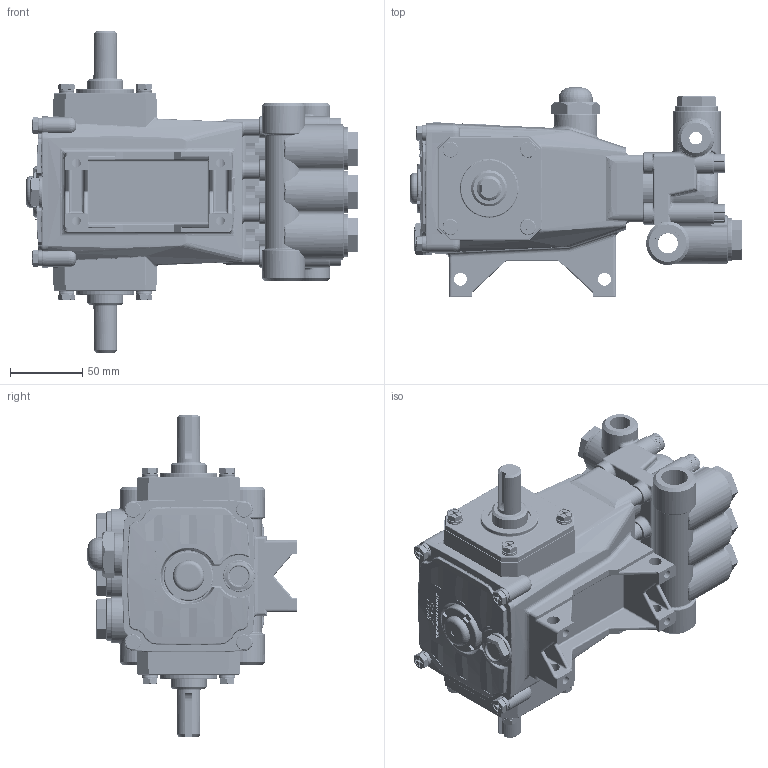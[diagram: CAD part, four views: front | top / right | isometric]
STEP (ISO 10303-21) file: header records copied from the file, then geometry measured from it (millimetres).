
FILE_DESCRIPTION (( 'STEP AP214' ), '1' );
FILE_NAME ('3CP 1120.STEP', '2012-11-15T10:04:57', ( '' ), ( '' ), 'SwSTEP 2.0', 'SolidWorks 2012', '' );
FILE_SCHEMA (( 'AUTOMOTIVE_DESIGN' ));
Length unit declared in the file: millimetre
Products named in the file (1): 3CP 1120
Bounding box: 230.5 x 145.2 x 223 mm (x, y, z)
Volume: 1446125.4 mm3; surface area: 319118.5 mm2
Topology: 3 solids, 37 shells, 8254 faces, 20838 edges, 12908 vertices
Faces by surface type: plane 4512, cylinder 1902, bspline 1005, torus 497, cone 310, sphere 28
Entity records: 382122 total; most frequent: CARTESIAN_POINT 102349, ORIENTED_EDGE 41480, DIRECTION 36442, EDGE_CURVE 20740, AXIS2_PLACEMENT_3D 13064, VERTEX_POINT 12908, VECTOR 10314, LINE 10314
